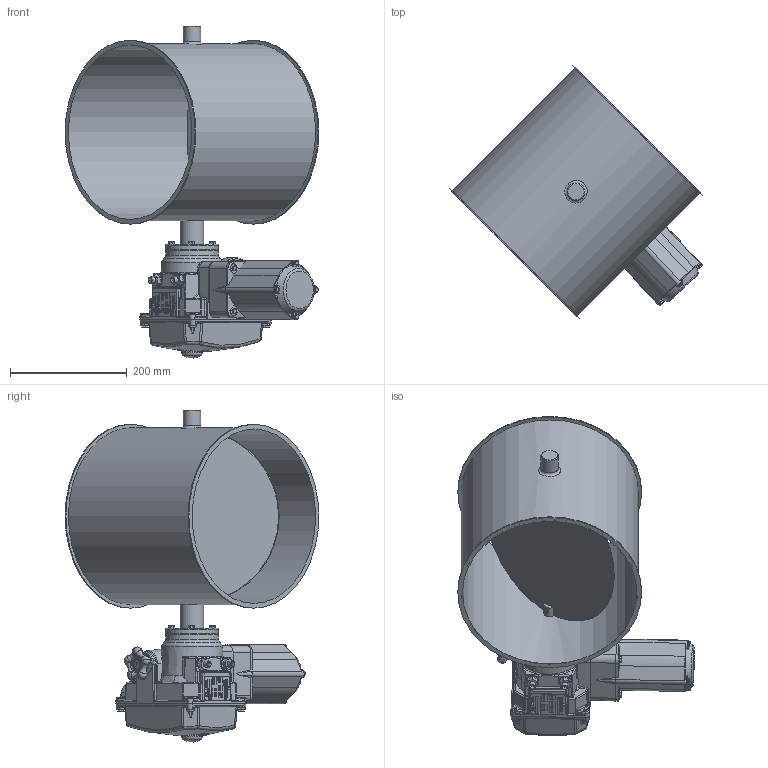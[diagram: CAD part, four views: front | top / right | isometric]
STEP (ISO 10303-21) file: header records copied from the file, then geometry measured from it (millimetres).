
FILE_DESCRIPTION((''),'2;1');
FILE_NAME('U:\Wolfgang\Marcel-3D\fertig\Kapitel 8\3021217.stp','2012-01-13T11:16:46',('iwienholt'),(''),'Autodesk Inventor 2010','Autodesk Inventor 2010','');
FILE_SCHEMA(('AUTOMOTIVE_DESIGN { 1 0 10303 214 1 1 1 1 }'));
Length unit declared in the file: millimetre
Products named in the file (9): 3021217; Bolzen D20; Scheibe300b; DIN 6912 M6 x 16; 3021211-1; D20 Antrieb LE-10; DIN EN ISO 4018 M6x25; LEB100cc; BuchseD20 90-50
Assembly tree (13 placements, depth 3):
  3021217
    Bolzen D20  x2
    Scheibe300b
    DIN 6912 M6 x 16  x2
    3021211-1
    D20 Antrieb LE-10
      DIN EN ISO 4018 M6x25  x4
      LEB100cc
      BuchseD20 90-50
Bounding box: 434.87 x 434.87 x 568.82 mm (x, y, z)
Volume: 5345357.1 mm3; surface area: 1026853.9 mm2
Topology: 12 solids, 12 shells, 1499 faces, 3789 edges, 2385 vertices
Faces by surface type: plane 760, cylinder 288, bspline 235, cone 89, torus 82, sphere 45
Full cylindrical faces by diameter (mm): 3 x2, 5 x4, 5.1 x8, 6 x14, 6.9 x8, 10 x6, 15 x1, 16 x1, 17 x1, 18.6 x2, 20 x4, 20.5 x1, 30 x2, 35 x1, 40 x2, 42 x1, 90 x1, 299 x2, 303 x1, 315 x2
Entity records: 51906 total; most frequent: CARTESIAN_POINT 19305, ORIENTED_EDGE 6736, DIRECTION 5870, EDGE_CURVE 3368, VERTEX_POINT 2219, AXIS2_PLACEMENT_3D 2055, VECTOR 1760, LINE 1760
